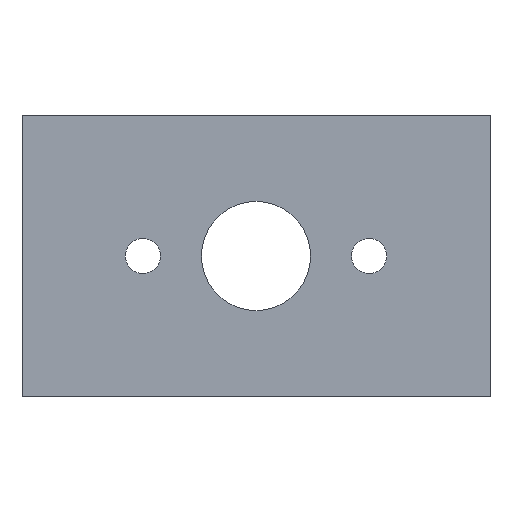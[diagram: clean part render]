
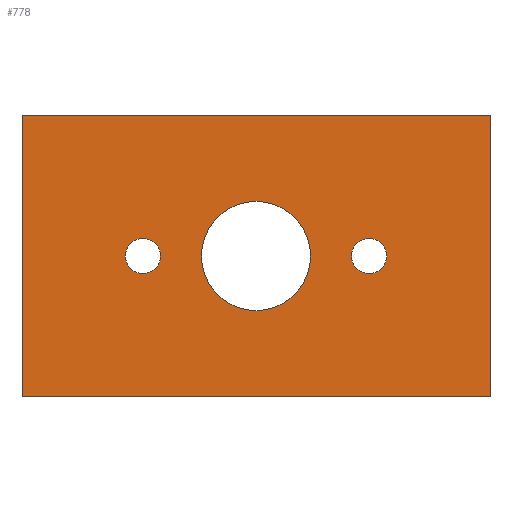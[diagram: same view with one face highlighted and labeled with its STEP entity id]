
A CAD part, front view. The second image highlights one B-rep face of the part: STEP entity #778.
In plain terms, the highlighted planar face has unit normal (0, -1, 0).
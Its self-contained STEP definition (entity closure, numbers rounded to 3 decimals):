
#33=FACE_BOUND('',#118,.T.);
#34=FACE_BOUND('',#119,.T.);
#35=FACE_BOUND('',#120,.T.);
#38=PLANE('',#826);
#75=FACE_OUTER_BOUND('',#117,.T.);
#117=EDGE_LOOP('',(#547,#548,#549,#550));
#118=EDGE_LOOP('',(#551));
#119=EDGE_LOOP('',(#552));
#120=EDGE_LOOP('',(#553));
#158=LINE('',#1145,#241);
#159=LINE('',#1147,#242);
#160=LINE('',#1149,#243);
#161=LINE('',#1150,#244);
#241=VECTOR('',#916,10.);
#242=VECTOR('',#917,10.);
#243=VECTOR('',#918,10.);
#244=VECTOR('',#919,10.);
#323=CIRCLE('',#818,1.125);
#325=CIRCLE('',#821,1.125);
#328=CIRCLE('',#827,3.5);
#341=VERTEX_POINT('',#1127);
#343=VERTEX_POINT('',#1133);
#346=VERTEX_POINT('',#1143);
#347=VERTEX_POINT('',#1144);
#348=VERTEX_POINT('',#1146);
#349=VERTEX_POINT('',#1148);
#350=VERTEX_POINT('',#1151);
#420=EDGE_CURVE('',#341,#341,#323,.T.);
#423=EDGE_CURVE('',#343,#343,#325,.T.);
#426=EDGE_CURVE('',#346,#347,#158,.T.);
#427=EDGE_CURVE('',#347,#348,#159,.T.);
#428=EDGE_CURVE('',#348,#349,#160,.T.);
#429=EDGE_CURVE('',#349,#346,#161,.T.);
#430=EDGE_CURVE('',#350,#350,#328,.T.);
#547=ORIENTED_EDGE('',*,*,#426,.T.);
#548=ORIENTED_EDGE('',*,*,#427,.T.);
#549=ORIENTED_EDGE('',*,*,#428,.T.);
#550=ORIENTED_EDGE('',*,*,#429,.T.);
#551=ORIENTED_EDGE('',*,*,#430,.T.);
#552=ORIENTED_EDGE('',*,*,#420,.T.);
#553=ORIENTED_EDGE('',*,*,#423,.T.);
#778=ADVANCED_FACE('',(#75,#33,#34,#35),#38,.T.);
#818=AXIS2_PLACEMENT_3D('',#1129,#897,#898);
#821=AXIS2_PLACEMENT_3D('',#1135,#904,#905);
#826=AXIS2_PLACEMENT_3D('',#1142,#914,#915);
#827=AXIS2_PLACEMENT_3D('',#1152,#920,#921);
#897=DIRECTION('center_axis',(0.,1.,0.));
#898=DIRECTION('ref_axis',(-1.,0.,0.));
#904=DIRECTION('center_axis',(0.,1.,0.));
#905=DIRECTION('ref_axis',(-1.,0.,0.));
#914=DIRECTION('center_axis',(0.,-1.,0.));
#915=DIRECTION('ref_axis',(0.,0.,-1.));
#916=DIRECTION('',(1.,0.,0.));
#917=DIRECTION('',(0.,0.,1.));
#918=DIRECTION('',(-1.,0.,0.));
#919=DIRECTION('',(0.,0.,-1.));
#920=DIRECTION('center_axis',(0.,1.,0.));
#921=DIRECTION('ref_axis',(1.,0.,0.));
#1127=CARTESIAN_POINT('',(8.375,0.6,0.));
#1129=CARTESIAN_POINT('Origin',(7.25,0.6,0.));
#1133=CARTESIAN_POINT('',(-6.125,0.6,0.));
#1135=CARTESIAN_POINT('Origin',(-7.25,0.6,0.));
#1142=CARTESIAN_POINT('Origin',(0.,0.6,0.));
#1143=CARTESIAN_POINT('',(-15.,0.6,-9.));
#1144=CARTESIAN_POINT('',(15.,0.6,-9.));
#1145=CARTESIAN_POINT('',(0.,0.6,-9.));
#1146=CARTESIAN_POINT('',(15.,0.6,9.));
#1147=CARTESIAN_POINT('',(15.,0.6,0.));
#1148=CARTESIAN_POINT('',(-15.,0.6,9.));
#1149=CARTESIAN_POINT('',(0.,0.6,9.));
#1150=CARTESIAN_POINT('',(-15.,0.6,0.));
#1151=CARTESIAN_POINT('',(0.,0.6,-3.5));
#1152=CARTESIAN_POINT('Origin',(0.,0.6,
0.));
